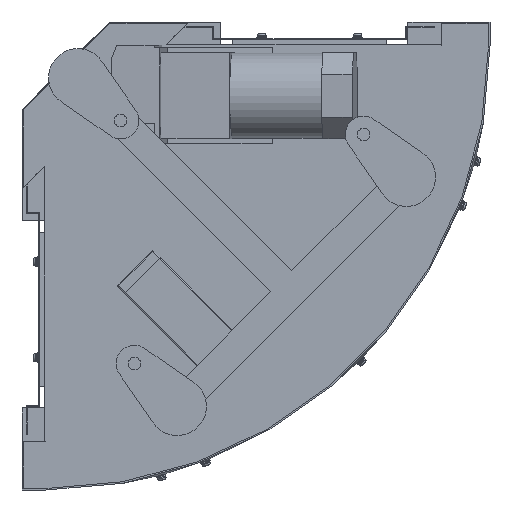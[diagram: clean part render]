
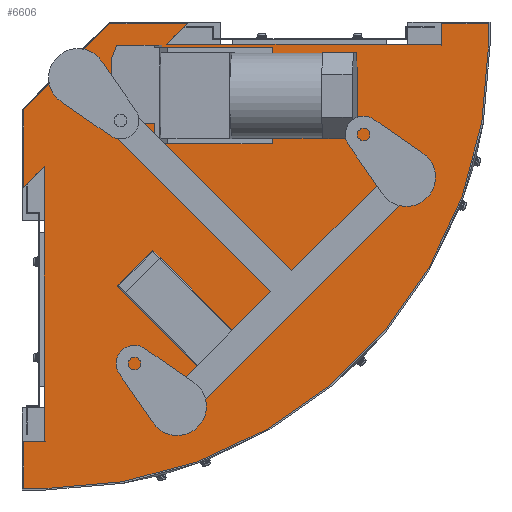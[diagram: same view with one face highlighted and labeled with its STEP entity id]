
A CAD part, front view. The second image highlights one B-rep face of the part: STEP entity #6606.
In plain terms, the highlighted planar face has unit normal (0, -1, 0).
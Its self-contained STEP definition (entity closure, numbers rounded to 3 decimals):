
#157 = LINE ( 'NONE', #5479, #6673 ) ;
#1016 = DIRECTION ( 'NONE',  ( 0., 0., 1. ) ) ;
#1213 = ORIENTED_EDGE ( 'NONE', *, *, #31851, .T. ) ;
#1447 = AXIS2_PLACEMENT_3D ( 'NONE', #27694, #22644, #20438 ) ;
#1948 = VECTOR ( 'NONE', #11337, 1000. ) ;
#2039 = CARTESIAN_POINT ( 'NONE',  ( -23.4, -145.7, -66.663 ) ) ;
#2404 = ORIENTED_EDGE ( 'NONE', *, *, #21990, .T. ) ;
#2463 = LINE ( 'NONE', #27421, #7445 ) ;
#2859 = VERTEX_POINT ( 'NONE', #5899 ) ;
#2997 = AXIS2_PLACEMENT_3D ( 'NONE', #27246, #20212, #22530 ) ;
#3540 = AXIS2_PLACEMENT_3D ( 'NONE', #14780, #24728, #19651 ) ;
#3604 = CARTESIAN_POINT ( 'NONE',  ( 66.663, -145.7, 23.4 ) ) ;
#3877 = CARTESIAN_POINT ( 'NONE',  ( 0., -145.7, -461.5 ) ) ;
#4261 = EDGE_CURVE ( 'NONE', #2859, #12433, #29756, .T. ) ;
#4431 = LINE ( 'NONE', #10174, #10153 ) ;
#4639 = DIRECTION ( 'NONE',  ( -1., 0., 0. ) ) ;
#5479 = CARTESIAN_POINT ( 'NONE',  ( -23.4, -145.7, -461.5 ) ) ;
#5899 = CARTESIAN_POINT ( 'NONE',  ( 0., -145.7, -412.5 ) ) ;
#6412 = LINE ( 'NONE', #26045, #11792 ) ;
#6548 = CARTESIAN_POINT ( 'NONE',  ( -23.4, -145.7, -147.5 ) ) ;
#6606 = ADVANCED_FACE ( 'NONE', ( #20344 ), #17005, .F. ) ;
#6673 = VECTOR ( 'NONE', #7983, 1000. ) ;
#7445 = VECTOR ( 'NONE', #10258, 1000. ) ;
#7478 = CIRCLE ( 'NONE', #3540, 412.5 ) ;
#7741 = LINE ( 'NONE', #13080, #29221 ) ;
#7890 = ORIENTED_EDGE ( 'NONE', *, *, #19401, .T. ) ;
#7983 = DIRECTION ( 'NONE',  ( 1., 0., 0. ) ) ;
#8393 = LINE ( 'NONE', #17101, #30276 ) ;
#8638 = ORIENTED_EDGE ( 'NONE', *, *, #30641, .F. ) ;
#8807 = VECTOR ( 'NONE', #27176, 1000. ) ;
#9057 = EDGE_CURVE ( 'NONE', #16101, #31079, #7741, .T. ) ;
#9600 = CARTESIAN_POINT ( 'NONE',  ( 0., -145.7, -412.5 ) ) ;
#9659 = CARTESIAN_POINT ( 'NONE',  ( -1.846, -145.7, -412.496 ) ) ;
#9747 = ORIENTED_EDGE ( 'NONE', *, *, #30610, .T. ) ;
#10153 = VECTOR ( 'NONE', #15254, 1000. ) ;
#10174 = CARTESIAN_POINT ( 'NONE',  ( 461.5, -145.7, 0. ) ) ;
#10258 = DIRECTION ( 'NONE',  ( 0.707, 0., 0.707 ) ) ;
#10680 = LINE ( 'NONE', #9600, #8807 ) ;
#11337 = DIRECTION ( 'NONE',  ( 1., 0., 0. ) ) ;
#11492 = EDGE_CURVE ( 'NONE', #17368, #26815, #18823, .T. ) ;
#11670 = LINE ( 'NONE', #14885, #21318 ) ;
#11792 = VECTOR ( 'NONE', #31003, 1000. ) ;
#12433 = VERTEX_POINT ( 'NONE', #21449 ) ;
#12867 = VERTEX_POINT ( 'NONE', #3604 ) ;
#13080 = CARTESIAN_POINT ( 'NONE',  ( -23.4, -145.7, -66.663 ) ) ;
#13628 = ORIENTED_EDGE ( 'NONE', *, *, #24226, .T. ) ;
#14688 = ORIENTED_EDGE ( 'NONE', *, *, #11492, .T. ) ;
#14780 = CARTESIAN_POINT ( 'NONE',  ( 0., -145.7, 0. ) ) ;
#14885 = CARTESIAN_POINT ( 'NONE',  ( 66.663, -145.7, 23.4 ) ) ;
#15254 = DIRECTION ( 'NONE',  ( 0., 0., 1. ) ) ;
#15681 = VECTOR ( 'NONE', #16988, 1000. ) ;
#16101 = VERTEX_POINT ( 'NONE', #2039 ) ;
#16135 = ORIENTED_EDGE ( 'NONE', *, *, #17406, .F. ) ;
#16146 = VERTEX_POINT ( 'NONE', #19347 ) ;
#16458 = ORIENTED_EDGE ( 'NONE', *, *, #22380, .F. ) ;
#16614 = CARTESIAN_POINT ( 'NONE',  ( 412.5, -145.7, 23.4 ) ) ;
#16988 = DIRECTION ( 'NONE',  ( 0., 0., 1. ) ) ;
#17005 = PLANE ( 'NONE',  #1447 ) ;
#17101 = CARTESIAN_POINT ( 'NONE',  ( 461.5, -145.7, 23.4 ) ) ;
#17300 = VERTEX_POINT ( 'NONE', #30456 ) ;
#17342 = CARTESIAN_POINT ( 'NONE',  ( 412.496, -145.7, 1.846 ) ) ;
#17349 = CARTESIAN_POINT ( 'NONE',  ( 412.5, -145.7, 0. ) ) ;
#17368 = VERTEX_POINT ( 'NONE', #16614 ) ;
#17373 = DIRECTION ( 'NONE',  ( -0.707, 0., -0.707 ) ) ;
#17406 = EDGE_CURVE ( 'NONE', #27804, #25126, #23802, .T. ) ;
#17484 = VERTEX_POINT ( 'NONE', #19450 ) ;
#17486 = CARTESIAN_POINT ( 'NONE',  ( -23.4, -145.7, -147.5 ) ) ;
#17552 = VERTEX_POINT ( 'NONE', #24946 ) ;
#18395 = EDGE_LOOP ( 'NONE', ( #16458, #16135, #25035, #26159, #30101, #19018, #29584, #8638, #26916, #30174, #7890, #13628, #1213, #2404, #9747, #14688 ) ) ;
#18532 = VERTEX_POINT ( 'NONE', #3877 ) ;
#18823 = LINE ( 'NONE', #20685, #26069 ) ;
#19018 = ORIENTED_EDGE ( 'NONE', *, *, #9057, .T. ) ;
#19056 = VECTOR ( 'NONE', #26779, 1000. ) ;
#19347 = CARTESIAN_POINT ( 'NONE',  ( -23.4, -145.7, -461.5 ) ) ;
#19401 = EDGE_CURVE ( 'NONE', #17552, #16146, #20171, .T. ) ;
#19450 = CARTESIAN_POINT ( 'NONE',  ( 461.5, -145.7, 23.4 ) ) ;
#19651 = DIRECTION ( 'NONE',  ( 0., 0., 1. ) ) ;
#20058 = DIRECTION ( 'NONE',  ( 0.707, 0., 0.707 ) ) ;
#20171 = LINE ( 'NONE', #21861, #19056 ) ;
#20212 = DIRECTION ( 'NONE',  ( 0., 1., 0. ) ) ;
#20344 = FACE_OUTER_BOUND ( 'NONE', #18395, .T. ) ;
#20438 = DIRECTION ( 'NONE',  ( 0., 0., 1. ) ) ;
#20598 = EDGE_CURVE ( 'NONE', #31079, #17300, #29236, .T. ) ;
#20685 = CARTESIAN_POINT ( 'NONE',  ( 412.5, -145.7, 23.4 ) ) ;
#21011 = AXIS2_PLACEMENT_3D ( 'NONE', #30204, #28147, #1016 ) ;
#21318 = VECTOR ( 'NONE', #17373, 1000. ) ;
#21449 = CARTESIAN_POINT ( 'NONE',  ( -1.846, -145.7, -412.496 ) ) ;
#21861 = CARTESIAN_POINT ( 'NONE',  ( -23.4, -145.7, -412.5 ) ) ;
#21990 = EDGE_CURVE ( 'NONE', #22675, #17484, #4431, .T. ) ;
#22380 = EDGE_CURVE ( 'NONE', #25126, #26815, #7478, .T. ) ;
#22432 = EDGE_CURVE ( 'NONE', #12867, #16101, #11670, .T. ) ;
#22530 = DIRECTION ( 'NONE',  ( 0., 0., 1. ) ) ;
#22644 = DIRECTION ( 'NONE',  ( 0., 1., 0. ) ) ;
#22675 = VERTEX_POINT ( 'NONE', #24911 ) ;
#22694 = VECTOR ( 'NONE', #20058, 1000. ) ;
#22837 = CIRCLE ( 'NONE', #21011, 461.5 ) ;
#23802 = LINE ( 'NONE', #31121, #1948 ) ;
#23844 = EDGE_CURVE ( 'NONE', #2859, #17552, #10680, .T. ) ;
#24226 = EDGE_CURVE ( 'NONE', #16146, #18532, #157, .T. ) ;
#24728 = DIRECTION ( 'NONE',  ( 0., 1., 0. ) ) ;
#24911 = CARTESIAN_POINT ( 'NONE',  ( 461.5, -145.7, 0. ) ) ;
#24946 = CARTESIAN_POINT ( 'NONE',  ( -23.4, -145.7, -412.5 ) ) ;
#25035 = ORIENTED_EDGE ( 'NONE', *, *, #29743, .T. ) ;
#25126 = VERTEX_POINT ( 'NONE', #17342 ) ;
#25157 = DIRECTION ( 'NONE',  ( 0., 0., -1. ) ) ;
#25522 = DIRECTION ( 'NONE',  ( 0., 0., -1. ) ) ;
#26045 = CARTESIAN_POINT ( 'NONE',  ( 147.5, -145.7, 23.4 ) ) ;
#26069 = VECTOR ( 'NONE', #25157, 1000. ) ;
#26159 = ORIENTED_EDGE ( 'NONE', *, *, #31427, .T. ) ;
#26203 = CARTESIAN_POINT ( 'NONE',  ( 125.898, -145.7, 1.798 ) ) ;
#26423 = LINE ( 'NONE', #9659, #15681 ) ;
#26779 = DIRECTION ( 'NONE',  ( 0., 0., -1. ) ) ;
#26815 = VERTEX_POINT ( 'NONE', #17349 ) ;
#26916 = ORIENTED_EDGE ( 'NONE', *, *, #4261, .F. ) ;
#27176 = DIRECTION ( 'NONE',  ( -1., 0., 0. ) ) ;
#27246 = CARTESIAN_POINT ( 'NONE',  ( 0., -145.7, 0. ) ) ;
#27421 = CARTESIAN_POINT ( 'NONE',  ( -23.4, -145.7, -147.5 ) ) ;
#27694 = CARTESIAN_POINT ( 'NONE',  ( 0., -145.7, 0. ) ) ;
#27804 = VERTEX_POINT ( 'NONE', #26203 ) ;
#28147 = DIRECTION ( 'NONE',  ( 0., -1., 0. ) ) ;
#28488 = VERTEX_POINT ( 'NONE', #29593 ) ;
#29221 = VECTOR ( 'NONE', #25522, 1000. ) ;
#29236 = LINE ( 'NONE', #17486, #22694 ) ;
#29584 = ORIENTED_EDGE ( 'NONE', *, *, #20598, .T. ) ;
#29593 = CARTESIAN_POINT ( 'NONE',  ( 147.5, -145.7, 23.4 ) ) ;
#29743 = EDGE_CURVE ( 'NONE', #27804, #28488, #2463, .T. ) ;
#29756 = CIRCLE ( 'NONE', #2997, 412.5 ) ;
#30101 = ORIENTED_EDGE ( 'NONE', *, *, #22432, .T. ) ;
#30174 = ORIENTED_EDGE ( 'NONE', *, *, #23844, .T. ) ;
#30204 = CARTESIAN_POINT ( 'NONE',  ( 0., -145.7, 0. ) ) ;
#30276 = VECTOR ( 'NONE', #4639, 1000. ) ;
#30456 = CARTESIAN_POINT ( 'NONE',  ( -1.798, -145.7, -125.898 ) ) ;
#30610 = EDGE_CURVE ( 'NONE', #17484, #17368, #8393, .T. ) ;
#30641 = EDGE_CURVE ( 'NONE', #12433, #17300, #26423, .T. ) ;
#31003 = DIRECTION ( 'NONE',  ( -1., 0., 0. ) ) ;
#31079 = VERTEX_POINT ( 'NONE', #6548 ) ;
#31121 = CARTESIAN_POINT ( 'NONE',  ( 125.898, -145.7, 1.798 ) ) ;
#31427 = EDGE_CURVE ( 'NONE', #28488, #12867, #6412, .T. ) ;
#31851 = EDGE_CURVE ( 'NONE', #18532, #22675, #22837, .T. ) ;
